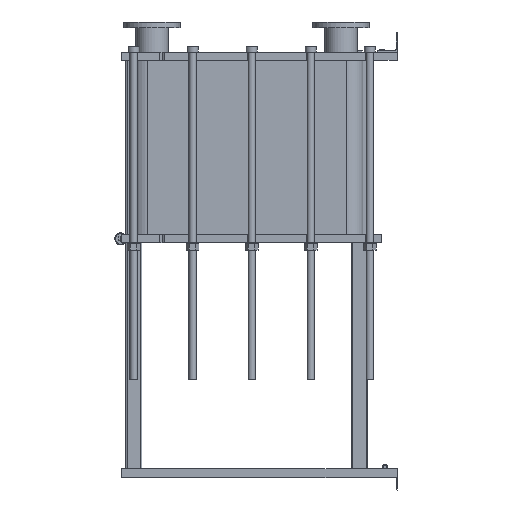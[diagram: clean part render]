
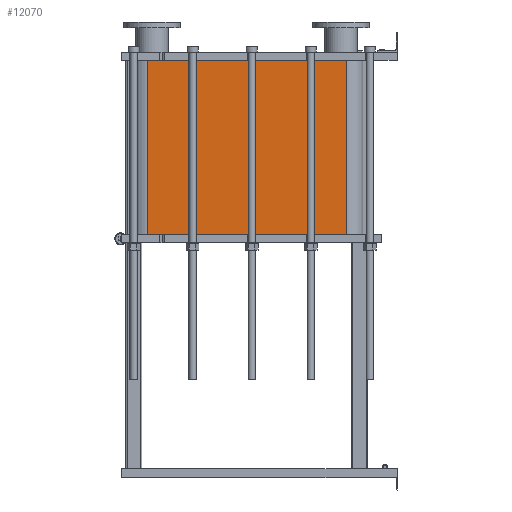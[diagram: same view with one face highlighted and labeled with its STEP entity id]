
A CAD part, left-side view. The second image highlights one B-rep face of the part: STEP entity #12070.
In plain terms, the highlighted planar face has unit normal (-1, 0, 0).
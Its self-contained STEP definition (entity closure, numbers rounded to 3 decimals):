
#1064=LINE('',#21140,#2164);
#1065=LINE('',#21144,#2165);
#1066=LINE('',#21146,#2166);
#1067=LINE('',#21147,#2167);
#2164=VECTOR('',#15790,10.);
#2165=VECTOR('',#15795,10.);
#2166=VECTOR('',#15796,10.);
#2167=VECTOR('',#15797,10.);
#3304=FACE_OUTER_BOUND('',#4091,.T.);
#4091=EDGE_LOOP('',(#9793,#9794,#9795,#9796));
#5677=VERTEX_POINT('',#21137);
#5678=VERTEX_POINT('',#21139);
#5679=VERTEX_POINT('',#21143);
#5680=VERTEX_POINT('',#21145);
#7118=EDGE_CURVE('',#5678,#5677,#1064,.T.);
#7120=EDGE_CURVE('',#5677,#5679,#1065,.T.);
#7121=EDGE_CURVE('',#5680,#5679,#1066,.T.);
#7122=EDGE_CURVE('',#5680,#5678,#1067,.T.);
#9793=ORIENTED_EDGE('',*,*,#7120,.T.);
#9794=ORIENTED_EDGE('',*,*,#7121,.F.);
#9795=ORIENTED_EDGE('',*,*,#7122,.T.);
#9796=ORIENTED_EDGE('',*,*,#7118,.T.);
#11441=PLANE('',#13191);
#12070=ADVANCED_FACE('',(#3304),#11441,.T.);
#13191=AXIS2_PLACEMENT_3D('',#21142,#15793,#15794);
#15790=DIRECTION('',(0.,0.,-1.));
#15793=DIRECTION('center_axis',(-1.,0.,0.));
#15794=DIRECTION('ref_axis',(0.,1.,0.));
#15795=DIRECTION('',(0.,-1.,0.));
#15796=DIRECTION('',(0.,0.,-1.));
#15797=DIRECTION('',(0.,1.,0.));
#21137=CARTESIAN_POINT('',(-248.152,1243.818,-869.4));
#21139=CARTESIAN_POINT('',(-248.152,1243.818,0.));
#21140=CARTESIAN_POINT('',(-248.152,1243.818,0.));
#21142=CARTESIAN_POINT('Origin',(-248.152,251.818,0.));
#21143=CARTESIAN_POINT('',(-248.152,251.818,-869.4));
#21144=CARTESIAN_POINT('',(-248.152,499.818,-869.4));
#21145=CARTESIAN_POINT('',(-248.152,251.818,0.));
#21146=CARTESIAN_POINT('',(-248.152,251.818,0.));
#21147=CARTESIAN_POINT('',(-248.152,251.818,0.));
